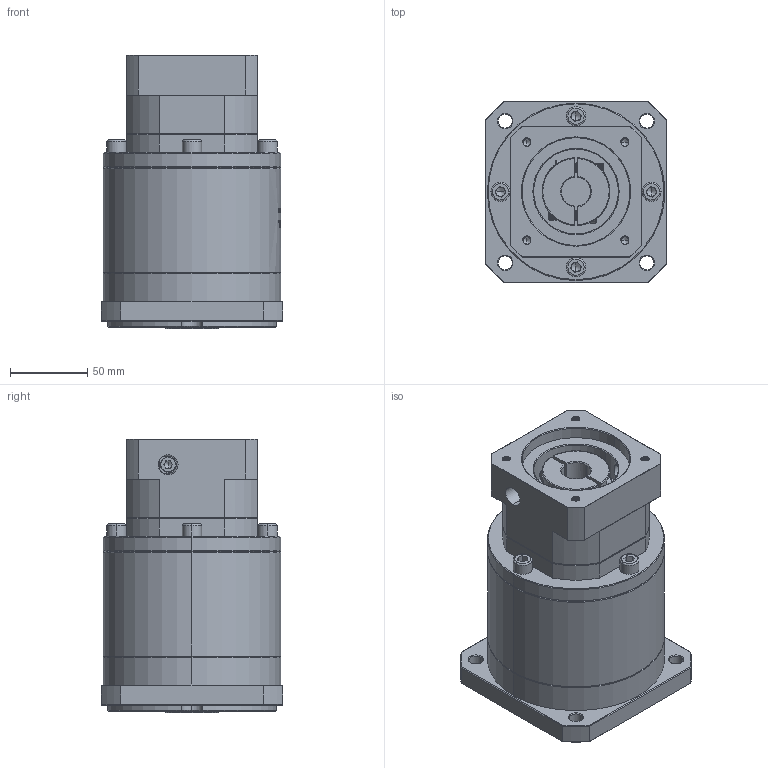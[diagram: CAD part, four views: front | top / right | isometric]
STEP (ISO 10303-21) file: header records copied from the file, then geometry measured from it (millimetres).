
FILE_DESCRIPTION (( 'STEP AP214' ), '1' );
FILE_NAME ('ZF120A-K25-L3-19-70-90-M6.step', '2023-03-07T15:04:25', ( '' ), ( 'Microsoft' ), 'SwSTEP 2.0', 'SolidWorks 2016', '' );
FILE_SCHEMA (( 'AUTOMOTIVE_DESIGN' ));
Length unit declared in the file: millimetre
Products named in the file (1): ZF120A-K25-L3-19-70-90-M6
Bounding box: 118 x 118 x 177.5 mm (x, y, z)
Volume: 1528453.8 mm3; surface area: 133682.4 mm2
Topology: 5 solids, 5 shells, 1850 faces, 4891 edges, 3130 vertices
Faces by surface type: plane 870, cylinder 363, bspline 327, cone 290
Entity records: 98970 total; most frequent: CARTESIAN_POINT 36470, ORIENTED_EDGE 9726, DIRECTION 7434, EDGE_CURVE 4863, VERTEX_POINT 3130, VECTOR 2678, LINE 2678, AXIS2_PLACEMENT_3D 2378
